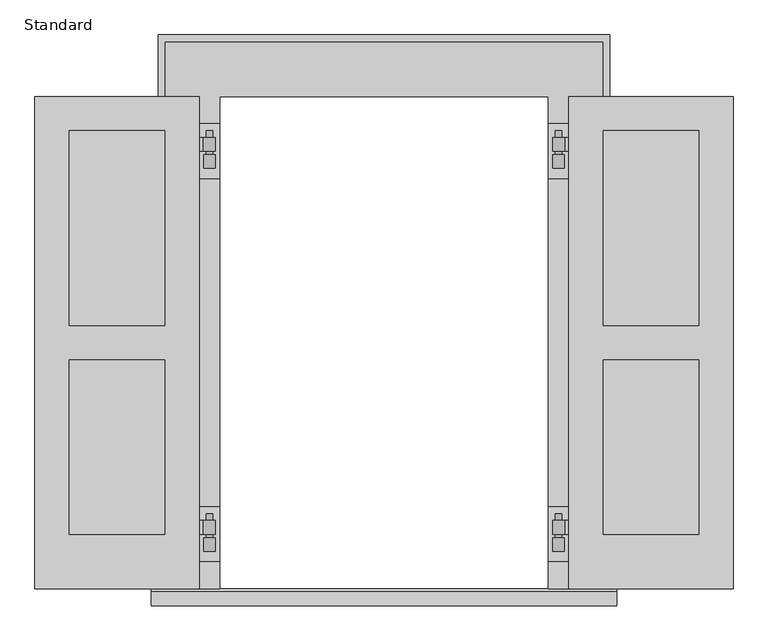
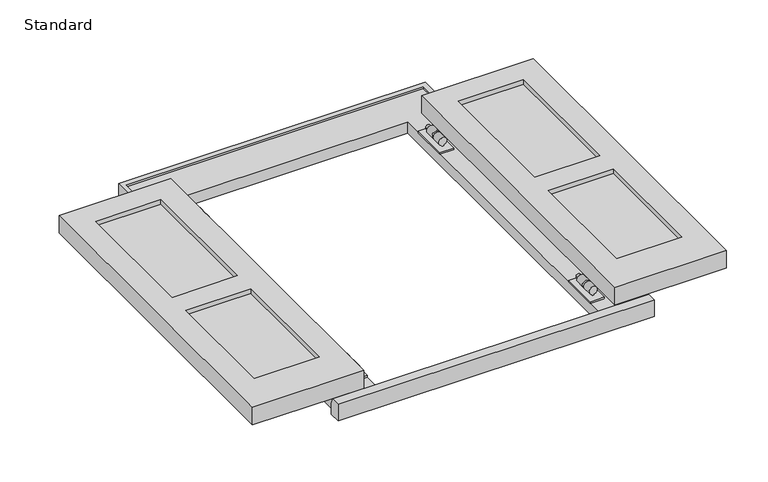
"""IFC4 building model written with IfcOpenShell, lengths in millimetres: proxy geometry, Shutters-Trim-Window-Exterior-Flat-Backband-Colonial : Standard."""

from ifc_helpers import new_model, si_unit, frame, origin, place, context, project, spatial, polyline, circle_curve, outline, extrude, faceted_brep, source, transform, mapped, element, save
from ifc_brep_helpers import plane_surface, cylinder_surface, revolved_surface, advanced_brep


def standard_7dc51323(model_context):
    return source(origin(), model_context, "Body", "SolidModel", [
        extrude(outline(polyline([(-647.7, 0.0), (-342.9, 0.0), (-342.9, -914.4), (-647.7, -914.4), (-647.7, 0.0)]), holes=[polyline([(-584.2, -63.5), (-584.2, -425.45), (-406.4, -425.45), (-406.4, -63.5), (-584.2, -63.5)]), polyline([(-406.4, -488.95), (-584.2, -488.95), (-584.2, -812.8), (-406.4, -812.8), (-406.4, -488.95)])]), frame((0.0, 0.0, 44.45), z_axis=(0.0, 0.0, 1.0), x_axis=(1.0, 0.0, 0.0)), (0.0, 0.0, 1.0), 50.8),
        extrude(outline(polyline([(-584.2, -63.5), (-406.4, -63.5), (-406.4, -425.45), (-584.2, -425.45), (-584.2, -63.5)])), frame((0.0, 0.0, 57.15), z_axis=(0.0, 0.0, 1.0), x_axis=(1.0, 0.0, 0.0)), (0.0, 0.0, 1.0), 25.4),
        extrude(outline(polyline([(-406.4, -488.95), (-406.4, -812.8), (-584.2, -812.8), (-584.2, -488.95), (-406.4, -488.95)])), frame((0.0, 0.0, 57.15), z_axis=(0.0, 0.0, 1.0), x_axis=(1.0, 0.0, 0.0)), (0.0, 0.0, 1.0), 25.4),
        extrude(outline(polyline([(647.7, 0.0), (647.7, -914.4), (342.9, -914.4), (342.9, 0.0), (647.7, 0.0)]), holes=[polyline([(584.2, -63.5), (406.4, -63.5), (406.4, -425.45), (584.2, -425.45), (584.2, -63.5)]), polyline([(406.4, -488.95), (406.4, -812.8), (584.2, -812.8), (584.2, -488.95), (406.4, -488.95)])]), frame((0.0, 0.0, 44.45), z_axis=(0.0, 0.0, 1.0), x_axis=(1.0, 0.0, 0.0)), (0.0, 0.0, 1.0), 50.8),
        extrude(outline(polyline([(584.2, -63.5), (584.2, -425.45), (406.4, -425.45), (406.4, -63.5), (584.2, -63.5)])), frame((0.0, 0.0, 57.15), z_axis=(0.0, 0.0, 1.0), x_axis=(1.0, 0.0, 0.0)), (0.0, 0.0, 1.0), 25.4),
        extrude(outline(polyline([(406.4, -488.95), (584.2, -488.95), (584.2, -812.8), (406.4, -812.8), (406.4, -488.95)])), frame((0.0, 0.0, 57.15), z_axis=(0.0, 0.0, 1.0), x_axis=(1.0, 0.0, 0.0)), (0.0, 0.0, 1.0), 25.4),
        extrude(outline(polyline([(-342.9, -762.0), (-304.8, -762.0), (-304.8, -863.6), (-342.9, -863.6), (-342.9, -762.0)])), frame((0.0, 0.0, 31.75), z_axis=(0.0, 0.0, 1.0), x_axis=(1.0, 0.0, 0.0)), (0.0, 0.0, 1.0), 4.7625),
        advanced_brep(
        [(-388.9375, -774.7, 44.45), (-363.474, -774.7, 44.45), (-363.474, -774.7, 39.6875), (-388.9375, -774.7, 39.6875), (-388.9375, -825.5, 39.6875), (-363.474, -825.5, 39.6875), (-363.474, -825.5, 44.45), (-388.9375, -825.5, 44.45), (-363.474, -787.4, 39.6875), (-323.85, -787.4, 39.6875), (-323.85, -812.8, 39.6875), (-363.474, -812.8, 39.6875), (-363.474, -812.8, 44.45), (-323.85, -812.8, 44.45), (-323.85, -787.4, 44.45), (-363.474, -787.4, 44.45), (-330.2, -812.8, 50.8), (-330.2, -787.4, 50.8), (-330.2, -812.8, 46.0375), (-330.2, -787.4, 46.0375), (-334.9625, -812.8, 46.0375), (-334.9625, -787.4, 46.0375), (-334.9625, -812.8, 50.8), (-334.9625, -787.4, 50.8)],
        [
            (0, 1),
            (1, 2),
            (2, 3),
            (3, 0),
            (4, 5),
            (5, 6),
            (6, 7),
            (7, 4),
            (2, 8),
            (8, 9),
            (9, 10),
            (10, 11),
            (11, 5),
            (4, 3),
            (7, 0),
            (6, 12),
            (12, 13),
            (13, 14),
            (14, 15),
            (15, 1),
            (16, 17),
            (17, 14, circle_curve(frame((-323.85, -787.4, 50.8), z_axis=(0.0, 1.0, 0.0), x_axis=(1.0, 0.0, 0.0)), 6.35)),
            (13, 16, circle_curve(frame((-323.85, -812.8, 50.8), z_axis=(0.0, -1.0, 0.0), x_axis=(1.0, 0.0, 0.0)), 6.35)),
            (18, 19),
            (19, 17),
            (16, 18),
            (20, 21),
            (21, 19),
            (18, 20),
            (22, 23),
            (23, 21),
            (20, 22),
            (9, 23, circle_curve(frame((-323.85, -787.4, 50.8), z_axis=(0.0, -1.0, 0.0), x_axis=(1.0, 0.0, 0.0)), 11.1125)),
            (22, 10, circle_curve(frame((-323.85, -812.8, 50.8), z_axis=(0.0, 1.0, 0.0), x_axis=(1.0, 0.0, 0.0)), 11.1125)),
            (12, 11),
            (8, 15),
        ],
        [
            plane_surface(frame((-323.85, -774.7, 50.8), z_axis=(0.0, 1.0, 0.0), x_axis=(0.0, 0.0, 1.0))),
            plane_surface(frame((-323.85, -825.5, 50.8), z_axis=(0.0, -1.0, 0.0), x_axis=(0.0, 0.0, 1.0))),
            plane_surface(frame((-388.9375, -774.7, 39.6875), z_axis=(0.0, 0.0, -1.0), x_axis=(0.0, -1.0, 0.0))),
            plane_surface(frame((-388.9375, -774.7, 44.45), z_axis=(-1.0, 0.0, 0.0), x_axis=(0.0, -1.0, 0.0))),
            plane_surface(frame((-323.85, -774.7, 44.45), z_axis=(0.0, 0.0, 1.0), x_axis=(0.0, -1.0, 0.0))),
            revolved_surface(polyline([(-317.5, -812.8, 50.8), (-317.5, -787.4, 50.8)]), (-323.85, -774.7, 50.8), (0.0, -1.0, 0.0)),
            plane_surface(frame((-330.2, -774.7, 46.0375), z_axis=(1.0, 0.0, 0.0), x_axis=(0.0, -1.0, 0.0))),
            plane_surface(frame((-334.9625, -774.7, 46.0375), z_axis=(0.0, 0.0, -1.0), x_axis=(0.0, -1.0, 0.0))),
            plane_surface(frame((-334.9625, -774.7, 50.8), z_axis=(-1.0, 0.0, 0.0), x_axis=(0.0, -1.0, 0.0))),
            cylinder_surface(frame((-323.85, -774.7, 50.8), z_axis=(0.0, 1.0, 0.0), x_axis=(1.0, 0.0, 0.0)), 11.1125),
            plane_surface(frame((-323.85, -812.8, 50.8), z_axis=(0.0, -1.0, 0.0), x_axis=(0.0, 0.0, 1.0))),
            plane_surface(frame((-363.474, -812.8, 44.45), z_axis=(1.0, 0.0, 0.0), x_axis=(0.0, -1.0, 0.0))),
            plane_surface(frame((-323.85, -787.4, 50.8), z_axis=(0.0, 1.0, 0.0), x_axis=(0.0, 0.0, 1.0))),
            plane_surface(frame((-363.474, -774.7, 44.45), z_axis=(1.0, 0.0, 0.0), x_axis=(0.0, -1.0, 0.0))),
        ],
        [
            (0, [[1, 2, 3, 4]]),
            (1, [[5, 6, 7, 8]]),
            (2, [[-3, 9, 10, 11, 12, 13, -5, 14]]),
            (3, [[-14, -8, 15, -4]]),
            (4, [[-7, 16, 17, 18, 19, 20, -1, -15]]),
            (5, [[21, 22, -18, 23]]),
            (6, [[24, 25, -21, 26]]),
            (7, [[27, 28, -24, 29]]),
            (8, [[30, 31, -27, 32]]),
            (9, [[-11, 33, -30, 34]]),
            (10, [[-12, -34, -32, -29, -26, -23, -17, 35]]),
            (11, [[-16, -6, -13, -35]]),
            (12, [[-19, -22, -25, -28, -31, -33, -10, 36]]),
            (13, [[-9, -2, -20, -36]]),
        ],
    ),
        advanced_brep(
        [(-326.23125, -819.15, 36.5125), (-326.23125, -819.15, 39.945632), (-321.46875, -819.15, 39.945632), (-321.46875, -819.15, 36.5125), (-317.5, -819.15, 50.8), (-330.2, -819.15, 50.8), (-326.23125, -844.55, 36.5125), (-321.46875, -844.55, 36.5125), (-321.46875, -844.55, 39.945632), (-326.23125, -844.55, 39.945632), (-330.2, -774.7, 50.8), (-317.5, -774.7, 50.8)],
        [
            (0, 1),
            (1, 2, circle_curve(frame((-323.85, -819.15, 50.8), z_axis=(0.0, 1.0, 0.0), x_axis=(1.0, 0.0, 0.0)), 11.1125)),
            (2, 3),
            (3, 0),
            (4, 5, circle_curve(frame((-323.85, -819.15, 50.8), z_axis=(0.0, -1.0, 0.0), x_axis=(1.0, 0.0, 0.0)), 6.35)),
            (5, 4, circle_curve(frame((-323.85, -819.15, 50.8), z_axis=(0.0, -1.0, 0.0), x_axis=(1.0, 0.0, 0.0)), 6.35)),
            (6, 7),
            (7, 8),
            (8, 9, circle_curve(frame((-323.85, -844.55, 50.8), z_axis=(0.0, -1.0, 0.0), x_axis=(1.0, 0.0, 0.0)), 11.1125)),
            (9, 6),
            (0, 6),
            (9, 1),
            (3, 7),
            (2, 8),
            (10, 11, circle_curve(frame((-323.85, -774.7, 50.8), z_axis=(0.0, 1.0, 0.0), x_axis=(1.0, 0.0, 0.0)), 6.35)),
            (11, 10, circle_curve(frame((-323.85, -774.7, 50.8), z_axis=(0.0, 1.0, 0.0), x_axis=(1.0, 0.0, 0.0)), 6.35)),
            (11, 4),
            (5, 10),
        ],
        [
            plane_surface(frame((-321.46875, -819.15, 36.5125), z_axis=(0.0, 1.0, 0.0), x_axis=(1.0, 0.0, 6.23955382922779e-12))),
            plane_surface(frame((-321.46875, -844.55, 36.5125), z_axis=(0.0, -1.0, 0.0), x_axis=(-1.0, 0.0, -6.23955382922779e-12))),
            plane_surface(frame((-326.23125, -819.15, 39.945632), z_axis=(-1.0, 0.0, 0.0), x_axis=(0.0, -1.0, 0.0))),
            plane_surface(frame((-326.23125, -819.15, 36.5125), z_axis=(6.23955382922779e-12, 0.0, -1.0), x_axis=(0.0, -1.0, 0.0))),
            plane_surface(frame((-321.46875, -819.15, 36.5125), z_axis=(1.0, 0.0, 0.0), x_axis=(0.0, -1.0, 0.0))),
            cylinder_surface(frame((-323.85, -844.55, 50.8), z_axis=(0.0, 1.0, 0.0), x_axis=(1.0, 0.0, 0.0)), 11.1125),
            plane_surface(frame((-317.5, -774.7, 50.8), z_axis=(0.0, 1.0, 0.0), x_axis=(0.0, 0.0, 1.0))),
            cylinder_surface(frame((-323.85, -844.55, 50.8), z_axis=(0.0, 1.0, 0.0), x_axis=(1.0, 0.0, 0.0)), 6.35),
        ],
        [
            (0, [[1, 2, 3, 4], [5, 6]]),
            (1, [[7, 8, 9, 10]]),
            (2, [[11, -10, 12, -1]]),
            (3, [[13, -7, -11, -4]]),
            (4, [[14, -8, -13, -3]]),
            (5, [[-12, -9, -14, -2]]),
            (6, [[15, 16]]),
            (7, [[17, -6, 18, -16]]),
            (7, [[-18, -5, -17, -15]]),
        ],
    ),
        extrude(outline(polyline([(342.9, -762.0), (342.9, -863.6), (304.8, -863.6), (304.8, -762.0), (342.9, -762.0)])), frame((0.0, 0.0, 31.75), z_axis=(0.0, 0.0, 1.0), x_axis=(1.0, 0.0, 0.0)), (0.0, 0.0, 1.0), 4.7625),
        advanced_brep(
        [(388.9375, -774.7, 44.45), (388.9375, -774.7, 39.6875), (363.474, -774.7, 39.6875), (363.474, -774.7, 44.45), (388.9375, -825.5, 39.6875), (388.9375, -825.5, 44.45), (363.474, -825.5, 44.45), (363.474, -825.5, 39.6875), (363.474, -812.8, 39.6875), (323.85, -812.8, 39.6875), (323.85, -787.4, 39.6875), (363.474, -787.4, 39.6875), (363.474, -787.4, 44.45), (323.85, -787.4, 44.45), (323.85, -812.8, 44.45), (363.474, -812.8, 44.45), (330.2, -812.8, 50.8), (330.2, -787.4, 50.8), (330.2, -812.8, 46.0375), (330.2, -787.4, 46.0375), (334.9625, -812.8, 46.0375), (334.9625, -787.4, 46.0375), (334.9625, -812.8, 50.8), (334.9625, -787.4, 50.8)],
        [
            (0, 1),
            (1, 2),
            (2, 3),
            (3, 0),
            (4, 5),
            (5, 6),
            (6, 7),
            (7, 4),
            (1, 4),
            (7, 8),
            (8, 9),
            (9, 10),
            (10, 11),
            (11, 2),
            (0, 5),
            (3, 12),
            (12, 13),
            (13, 14),
            (14, 15),
            (15, 6),
            (16, 14, circle_curve(frame((323.85, -812.8, 50.8), z_axis=(0.0, -1.0, 0.0), x_axis=(-1.0, 0.0, 0.0)), 6.35)),
            (13, 17, circle_curve(frame((323.85, -787.4, 50.8), z_axis=(0.0, 1.0, 0.0), x_axis=(-1.0, 0.0, 0.0)), 6.35)),
            (17, 16),
            (18, 16),
            (17, 19),
            (19, 18),
            (20, 18),
            (19, 21),
            (21, 20),
            (22, 20),
            (21, 23),
            (23, 22),
            (9, 22, circle_curve(frame((323.85, -812.8, 50.8), z_axis=(0.0, 1.0, 0.0), x_axis=(-1.0, 0.0, 0.0)), 11.1125)),
            (23, 10, circle_curve(frame((323.85, -787.4, 50.8), z_axis=(0.0, -1.0, 0.0), x_axis=(-1.0, 0.0, 0.0)), 11.1125)),
            (8, 15),
            (12, 11),
        ],
        [
            plane_surface(frame((323.85, -774.7, 50.8), z_axis=(0.0, 1.0, 0.0), x_axis=(0.0, 0.0, 1.0))),
            plane_surface(frame((323.85, -825.5, 50.8), z_axis=(0.0, -1.0, 0.0), x_axis=(0.0, 0.0, 1.0))),
            plane_surface(frame((388.9375, -774.7, 39.6875), z_axis=(0.0, 0.0, -1.0), x_axis=(0.0, -1.0, 0.0))),
            plane_surface(frame((388.9375, -774.7, 44.45), z_axis=(1.0, 0.0, 0.0), x_axis=(0.0, -1.0, 0.0))),
            plane_surface(frame((323.85, -774.7, 44.45), z_axis=(0.0, 0.0, 1.0), x_axis=(0.0, -1.0, 0.0))),
            revolved_surface(polyline([(317.5, -812.8, 50.8), (317.5, -787.4, 50.8)]), (323.85, -774.7, 50.8), (0.0, -1.0, 0.0)),
            plane_surface(frame((330.2, -774.7, 46.0375), z_axis=(-1.0, 0.0, 0.0), x_axis=(0.0, -1.0, 0.0))),
            plane_surface(frame((334.9625, -774.7, 46.0375), z_axis=(0.0, 0.0, -1.0), x_axis=(0.0, -1.0, 0.0))),
            plane_surface(frame((334.9625, -774.7, 50.8), z_axis=(1.0, 0.0, 0.0), x_axis=(0.0, -1.0, 0.0))),
            cylinder_surface(frame((323.85, -774.7, 50.8), z_axis=(0.0, 1.0, 0.0), x_axis=(-1.0, 0.0, 0.0)), 11.1125),
            plane_surface(frame((323.85, -812.8, 50.8), z_axis=(0.0, -1.0, 0.0), x_axis=(0.0, 0.0, 1.0))),
            plane_surface(frame((363.474, -812.8, 44.45), z_axis=(-1.0, 0.0, 0.0), x_axis=(0.0, -1.0, 0.0))),
            plane_surface(frame((323.85, -787.4, 50.8), z_axis=(0.0, 1.0, 0.0), x_axis=(0.0, 0.0, 1.0))),
            plane_surface(frame((363.474, -774.7, 44.45), z_axis=(-1.0, 0.0, 0.0), x_axis=(0.0, -1.0, 0.0))),
        ],
        [
            (0, [[1, 2, 3, 4]]),
            (1, [[5, 6, 7, 8]]),
            (2, [[9, -8, 10, 11, 12, 13, 14, -2]]),
            (3, [[-1, 15, -5, -9]]),
            (4, [[-15, -4, 16, 17, 18, 19, 20, -6]]),
            (5, [[21, -18, 22, 23]]),
            (6, [[24, -23, 25, 26]]),
            (7, [[27, -26, 28, 29]]),
            (8, [[30, -29, 31, 32]]),
            (9, [[33, -32, 34, -12]]),
            (10, [[35, -19, -21, -24, -27, -30, -33, -11]]),
            (11, [[-35, -10, -7, -20]]),
            (12, [[36, -13, -34, -31, -28, -25, -22, -17]]),
            (13, [[-36, -16, -3, -14]]),
        ],
    ),
        advanced_brep(
        [(326.23125, -819.15, 36.5125), (321.46875, -819.15, 36.5125), (321.46875, -819.15, 39.945632), (326.23125, -819.15, 39.945632), (317.5, -819.15, 50.8), (330.2, -819.15, 50.8), (326.23125, -844.55, 36.5125), (326.23125, -844.55, 39.945632), (321.46875, -844.55, 39.945632), (321.46875, -844.55, 36.5125), (330.2, -774.7, 50.8), (317.5, -774.7, 50.8)],
        [
            (0, 1),
            (1, 2),
            (2, 3, circle_curve(frame((323.85, -819.15, 50.8), z_axis=(0.0, 1.0, 0.0), x_axis=(-1.0, 0.0, 0.0)), 11.1125)),
            (3, 0),
            (4, 5, circle_curve(frame((323.85, -819.15, 50.8), z_axis=(0.0, -1.0, 0.0), x_axis=(-1.0, 0.0, 0.0)), 6.35)),
            (5, 4, circle_curve(frame((323.85, -819.15, 50.8), z_axis=(0.0, -1.0, 0.0), x_axis=(-1.0, 0.0, 0.0)), 6.35)),
            (6, 7),
            (7, 8, circle_curve(frame((323.85, -844.55, 50.8), z_axis=(0.0, -1.0, 0.0), x_axis=(-1.0, 0.0, 0.0)), 11.1125)),
            (8, 9),
            (9, 6),
            (3, 7),
            (6, 0),
            (9, 1),
            (8, 2),
            (10, 11, circle_curve(frame((323.85, -774.7, 50.8), z_axis=(0.0, 1.0, 0.0), x_axis=(-1.0, 0.0, 0.0)), 6.35)),
            (11, 10, circle_curve(frame((323.85, -774.7, 50.8), z_axis=(0.0, 1.0, 0.0), x_axis=(-1.0, 0.0, 0.0)), 6.35)),
            (10, 5),
            (4, 11),
        ],
        [
            plane_surface(frame((321.46875, -819.15, 36.5125), z_axis=(0.0, 1.0, 0.0), x_axis=(-1.0, 0.0, 6.246014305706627e-12))),
            plane_surface(frame((321.46875, -844.55, 36.5125), z_axis=(0.0, -1.0, 0.0), x_axis=(1.0, 0.0, -6.246014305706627e-12))),
            plane_surface(frame((326.23125, -819.15, 39.945632), z_axis=(1.0, 0.0, 0.0), x_axis=(0.0, -1.0, 0.0))),
            plane_surface(frame((326.23125, -819.15, 36.5125), z_axis=(-6.246014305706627e-12, 0.0, -1.0), x_axis=(0.0, -1.0, 0.0))),
            plane_surface(frame((321.46875, -819.15, 36.5125), z_axis=(-1.0, 0.0, 0.0), x_axis=(0.0, -1.0, 0.0))),
            cylinder_surface(frame((323.85, -844.55, 50.8), z_axis=(0.0, 1.0, 0.0), x_axis=(-1.0, 0.0, 0.0)), 11.1125),
            plane_surface(frame((317.5, -774.7, 50.8), z_axis=(0.0, 1.0, 0.0), x_axis=(0.0, 0.0, 1.0))),
            cylinder_surface(frame((323.85, -844.55, 50.8), z_axis=(0.0, 1.0, 0.0), x_axis=(-1.0, 0.0, 0.0)), 6.35),
        ],
        [
            (0, [[1, 2, 3, 4], [5, 6]]),
            (1, [[7, 8, 9, 10]]),
            (2, [[-4, 11, -7, 12]]),
            (3, [[-1, -12, -10, 13]]),
            (4, [[-2, -13, -9, 14]]),
            (5, [[-3, -14, -8, -11]]),
            (6, [[15, 16]]),
            (7, [[-15, 17, -5, 18]]),
            (7, [[-16, -18, -6, -17]]),
        ],
    ),
        extrude(outline(polyline([(342.9, -50.8), (342.9, -152.4), (304.8, -152.4), (304.8, -50.8), (342.9, -50.8)])), frame((0.0, 0.0, 31.75), z_axis=(0.0, 0.0, 1.0), x_axis=(1.0, 0.0, 0.0)), (0.0, 0.0, 1.0), 4.7625),
        advanced_brep(
        [(388.9375, -63.5, 44.45), (388.9375, -63.5, 39.6875), (363.474, -63.5, 39.6875), (363.474, -63.5, 44.45), (388.9375, -114.3, 39.6875), (388.9375, -114.3, 44.45), (363.474, -114.3, 44.45), (363.474, -114.3, 39.6875), (363.474, -101.6, 39.6875), (323.85, -101.6, 39.6875), (323.85, -76.2, 39.6875), (363.474, -76.2, 39.6875), (363.474, -76.2, 44.45), (323.85, -76.2, 44.45), (323.85, -101.6, 44.45), (363.474, -101.6, 44.45), (330.2, -101.6, 50.8), (330.2, -76.2, 50.8), (330.2, -101.6, 46.0375), (330.2, -76.2, 46.0375), (334.9625, -101.6, 46.0375), (334.9625, -76.2, 46.0375), (334.9625, -101.6, 50.8), (334.9625, -76.2, 50.8)],
        [
            (0, 1),
            (1, 2),
            (2, 3),
            (3, 0),
            (4, 5),
            (5, 6),
            (6, 7),
            (7, 4),
            (1, 4),
            (7, 8),
            (8, 9),
            (9, 10),
            (10, 11),
            (11, 2),
            (0, 5),
            (3, 12),
            (12, 13),
            (13, 14),
            (14, 15),
            (15, 6),
            (16, 14, circle_curve(frame((323.85, -101.6, 50.8), z_axis=(0.0, -1.0, 0.0), x_axis=(-1.0, 0.0, 0.0)), 6.35)),
            (13, 17, circle_curve(frame((323.85, -76.2, 50.8), z_axis=(0.0, 1.0, 0.0), x_axis=(-1.0, 0.0, 0.0)), 6.35)),
            (17, 16),
            (18, 16),
            (17, 19),
            (19, 18),
            (20, 18),
            (19, 21),
            (21, 20),
            (22, 20),
            (21, 23),
            (23, 22),
            (9, 22, circle_curve(frame((323.85, -101.6, 50.8), z_axis=(0.0, 1.0, 0.0), x_axis=(-1.0, 0.0, 0.0)), 11.1125)),
            (23, 10, circle_curve(frame((323.85, -76.2, 50.8), z_axis=(0.0, -1.0, 0.0), x_axis=(-1.0, 0.0, 0.0)), 11.1125)),
            (8, 15),
            (12, 11),
        ],
        [
            plane_surface(frame((323.85, -63.5, 50.8), z_axis=(0.0, 1.0, 0.0), x_axis=(0.0, 0.0, 1.0))),
            plane_surface(frame((323.85, -114.3, 50.8), z_axis=(0.0, -1.0, 0.0), x_axis=(0.0, 0.0, 1.0))),
            plane_surface(frame((388.9375, -63.5, 39.6875), z_axis=(0.0, 0.0, -1.0), x_axis=(0.0, -1.0, 0.0))),
            plane_surface(frame((388.9375, -63.5, 44.45), z_axis=(1.0, 0.0, 0.0), x_axis=(0.0, -1.0, 0.0))),
            plane_surface(frame((323.85, -63.5, 44.45), z_axis=(0.0, 0.0, 1.0), x_axis=(0.0, -1.0, 0.0))),
            revolved_surface(polyline([(317.5, -101.6, 50.8), (317.5, -76.2, 50.8)]), (323.85, -63.5, 50.8), (0.0, -1.0, 0.0)),
            plane_surface(frame((330.2, -63.5, 46.0375), z_axis=(-1.0, 0.0, 0.0), x_axis=(0.0, -1.0, 0.0))),
            plane_surface(frame((334.9625, -63.5, 46.0375), z_axis=(0.0, 0.0, -1.0), x_axis=(0.0, -1.0, 0.0))),
            plane_surface(frame((334.9625, -63.5, 50.8), z_axis=(1.0, 0.0, 0.0), x_axis=(0.0, -1.0, 0.0))),
            cylinder_surface(frame((323.85, -63.5, 50.8), z_axis=(0.0, 1.0, 0.0), x_axis=(-1.0, 0.0, 0.0)), 11.1125),
            plane_surface(frame((323.85, -101.6, 50.8), z_axis=(0.0, -1.0, 0.0), x_axis=(0.0, 0.0, 1.0))),
            plane_surface(frame((363.474, -101.6, 44.45), z_axis=(-1.0, 0.0, 0.0), x_axis=(0.0, -1.0, 0.0))),
            plane_surface(frame((323.85, -76.2, 50.8), z_axis=(0.0, 1.0, 0.0), x_axis=(0.0, 0.0, 1.0))),
            plane_surface(frame((363.474, -63.5, 44.45), z_axis=(-1.0, 0.0, 0.0), x_axis=(0.0, -1.0, 0.0))),
        ],
        [
            (0, [[1, 2, 3, 4]]),
            (1, [[5, 6, 7, 8]]),
            (2, [[9, -8, 10, 11, 12, 13, 14, -2]]),
            (3, [[-1, 15, -5, -9]]),
            (4, [[-15, -4, 16, 17, 18, 19, 20, -6]]),
            (5, [[21, -18, 22, 23]]),
            (6, [[24, -23, 25, 26]]),
            (7, [[27, -26, 28, 29]]),
            (8, [[30, -29, 31, 32]]),
            (9, [[33, -32, 34, -12]]),
            (10, [[35, -19, -21, -24, -27, -30, -33, -11]]),
            (11, [[-35, -10, -7, -20]]),
            (12, [[36, -13, -34, -31, -28, -25, -22, -17]]),
            (13, [[-36, -16, -3, -14]]),
        ],
    ),
        advanced_brep(
        [(326.23125, -107.95, 36.5125), (321.46875, -107.95, 36.5125), (321.46875, -107.95, 39.945632), (326.23125, -107.95, 39.945632), (317.5, -107.95, 50.8), (330.2, -107.95, 50.8), (326.23125, -133.35, 36.5125), (326.23125, -133.35, 39.945632), (321.46875, -133.35, 39.945632), (321.46875, -133.35, 36.5125), (330.2, -63.5, 50.8), (317.5, -63.5, 50.8)],
        [
            (0, 1),
            (1, 2),
            (2, 3, circle_curve(frame((323.85, -107.95, 50.8), z_axis=(0.0, 1.0, 0.0), x_axis=(-1.0, 0.0, 0.0)), 11.1125)),
            (3, 0),
            (4, 5, circle_curve(frame((323.85, -107.95, 50.8), z_axis=(0.0, -1.0, 0.0), x_axis=(-1.0, 0.0, 0.0)), 6.35)),
            (5, 4, circle_curve(frame((323.85, -107.95, 50.8), z_axis=(0.0, -1.0, 0.0), x_axis=(-1.0, 0.0, 0.0)), 6.35)),
            (6, 7),
            (7, 8, circle_curve(frame((323.85, -133.35, 50.8), z_axis=(0.0, -1.0, 0.0), x_axis=(-1.0, 0.0, 0.0)), 11.1125)),
            (8, 9),
            (9, 6),
            (3, 7),
            (6, 0),
            (9, 1),
            (8, 2),
            (10, 11, circle_curve(frame((323.85, -63.5, 50.8), z_axis=(0.0, 1.0, 0.0), x_axis=(-1.0, 0.0, 0.0)), 6.35)),
            (11, 10, circle_curve(frame((323.85, -63.5, 50.8), z_axis=(0.0, 1.0, 0.0), x_axis=(-1.0, 0.0, 0.0)), 6.35)),
            (10, 5),
            (4, 11),
        ],
        [
            plane_surface(frame((321.46875, -107.95, 36.5125), z_axis=(0.0, 1.0, 0.0), x_axis=(-1.0, 0.0, 6.246014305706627e-12))),
            plane_surface(frame((321.46875, -133.35, 36.5125), z_axis=(0.0, -1.0, 0.0), x_axis=(1.0, 0.0, -6.246014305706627e-12))),
            plane_surface(frame((326.23125, -107.95, 39.945632), z_axis=(1.0, 0.0, 0.0), x_axis=(0.0, -1.0, 0.0))),
            plane_surface(frame((326.23125, -107.95, 36.5125), z_axis=(-6.246014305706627e-12, 0.0, -1.0), x_axis=(0.0, -1.0, 0.0))),
            plane_surface(frame((321.46875, -107.95, 36.5125), z_axis=(-1.0, 0.0, 0.0), x_axis=(0.0, -1.0, 0.0))),
            cylinder_surface(frame((323.85, -133.35, 50.8), z_axis=(0.0, 1.0, 0.0), x_axis=(-1.0, 0.0, 0.0)), 11.1125),
            plane_surface(frame((317.5, -63.5, 50.8), z_axis=(0.0, 1.0, 0.0), x_axis=(0.0, 0.0, 1.0))),
            cylinder_surface(frame((323.85, -133.35, 50.8), z_axis=(0.0, 1.0, 0.0), x_axis=(-1.0, 0.0, 0.0)), 6.35),
        ],
        [
            (0, [[1, 2, 3, 4], [5, 6]]),
            (1, [[7, 8, 9, 10]]),
            (2, [[-4, 11, -7, 12]]),
            (3, [[-1, -12, -10, 13]]),
            (4, [[-2, -13, -9, 14]]),
            (5, [[-3, -14, -8, -11]]),
            (6, [[15, 16]]),
            (7, [[-15, 17, -5, 18]]),
            (7, [[-16, -18, -6, -17]]),
        ],
    ),
        extrude(outline(polyline([(-342.9, -50.8), (-304.8, -50.8), (-304.8, -152.4), (-342.9, -152.4), (-342.9, -50.8)])), frame((0.0, 0.0, 31.75), z_axis=(0.0, 0.0, 1.0), x_axis=(1.0, 0.0, 0.0)), (0.0, 0.0, 1.0), 4.7625),
        advanced_brep(
        [(-388.9375, -63.5, 44.45), (-363.474, -63.5, 44.45), (-363.474, -63.5, 39.6875), (-388.9375, -63.5, 39.6875), (-388.9375, -114.3, 39.6875), (-363.474, -114.3, 39.6875), (-363.474, -114.3, 44.45), (-388.9375, -114.3, 44.45), (-363.474, -76.2, 39.6875), (-323.85, -76.2, 39.6875), (-323.85, -101.6, 39.6875), (-363.474, -101.6, 39.6875), (-363.474, -101.6, 44.45), (-323.85, -101.6, 44.45), (-323.85, -76.2, 44.45), (-363.474, -76.2, 44.45), (-330.2, -101.6, 50.8), (-330.2, -76.2, 50.8), (-330.2, -101.6, 46.0375), (-330.2, -76.2, 46.0375), (-334.9625, -101.6, 46.0375), (-334.9625, -76.2, 46.0375), (-334.9625, -101.6, 50.8), (-334.9625, -76.2, 50.8)],
        [
            (0, 1),
            (1, 2),
            (2, 3),
            (3, 0),
            (4, 5),
            (5, 6),
            (6, 7),
            (7, 4),
            (2, 8),
            (8, 9),
            (9, 10),
            (10, 11),
            (11, 5),
            (4, 3),
            (7, 0),
            (6, 12),
            (12, 13),
            (13, 14),
            (14, 15),
            (15, 1),
            (16, 17),
            (17, 14, circle_curve(frame((-323.85, -76.2, 50.8), z_axis=(0.0, 1.0, 0.0), x_axis=(1.0, 0.0, 0.0)), 6.35)),
            (13, 16, circle_curve(frame((-323.85, -101.6, 50.8), z_axis=(0.0, -1.0, 0.0), x_axis=(1.0, 0.0, 0.0)), 6.35)),
            (18, 19),
            (19, 17),
            (16, 18),
            (20, 21),
            (21, 19),
            (18, 20),
            (22, 23),
            (23, 21),
            (20, 22),
            (9, 23, circle_curve(frame((-323.85, -76.2, 50.8), z_axis=(0.0, -1.0, 0.0), x_axis=(1.0, 0.0, 0.0)), 11.1125)),
            (22, 10, circle_curve(frame((-323.85, -101.6, 50.8), z_axis=(0.0, 1.0, 0.0), x_axis=(1.0, 0.0, 0.0)), 11.1125)),
            (12, 11),
            (8, 15),
        ],
        [
            plane_surface(frame((-323.85, -63.5, 50.8), z_axis=(0.0, 1.0, 0.0), x_axis=(0.0, 0.0, 1.0))),
            plane_surface(frame((-323.85, -114.3, 50.8), z_axis=(0.0, -1.0, 0.0), x_axis=(0.0, 0.0, 1.0))),
            plane_surface(frame((-388.9375, -63.5, 39.6875), z_axis=(0.0, 0.0, -1.0), x_axis=(0.0, -1.0, 0.0))),
            plane_surface(frame((-388.9375, -63.5, 44.45), z_axis=(-1.0, 0.0, 0.0), x_axis=(0.0, -1.0, 0.0))),
            plane_surface(frame((-323.85, -63.5, 44.45), z_axis=(0.0, 0.0, 1.0), x_axis=(0.0, -1.0, 0.0))),
            revolved_surface(polyline([(-317.5, -101.6, 50.8), (-317.5, -76.2, 50.8)]), (-323.85, -63.5, 50.8), (0.0, -1.0, 0.0)),
            plane_surface(frame((-330.2, -63.5, 46.0375), z_axis=(1.0, 0.0, 0.0), x_axis=(0.0, -1.0, 0.0))),
            plane_surface(frame((-334.9625, -63.5, 46.0375), z_axis=(0.0, 0.0, -1.0), x_axis=(0.0, -1.0, 0.0))),
            plane_surface(frame((-334.9625, -63.5, 50.8), z_axis=(-1.0, 0.0, 0.0), x_axis=(0.0, -1.0, 0.0))),
            cylinder_surface(frame((-323.85, -63.5, 50.8), z_axis=(0.0, 1.0, 0.0), x_axis=(1.0, 0.0, 0.0)), 11.1125),
            plane_surface(frame((-323.85, -101.6, 50.8), z_axis=(0.0, -1.0, 0.0), x_axis=(0.0, 0.0, 1.0))),
            plane_surface(frame((-363.474, -101.6, 44.45), z_axis=(1.0, 0.0, 0.0), x_axis=(0.0, -1.0, 0.0))),
            plane_surface(frame((-323.85, -76.2, 50.8), z_axis=(0.0, 1.0, 0.0), x_axis=(0.0, 0.0, 1.0))),
            plane_surface(frame((-363.474, -63.5, 44.45), z_axis=(1.0, 0.0, 0.0), x_axis=(0.0, -1.0, 0.0))),
        ],
        [
            (0, [[1, 2, 3, 4]]),
            (1, [[5, 6, 7, 8]]),
            (2, [[-3, 9, 10, 11, 12, 13, -5, 14]]),
            (3, [[-14, -8, 15, -4]]),
            (4, [[-7, 16, 17, 18, 19, 20, -1, -15]]),
            (5, [[21, 22, -18, 23]]),
            (6, [[24, 25, -21, 26]]),
            (7, [[27, 28, -24, 29]]),
            (8, [[30, 31, -27, 32]]),
            (9, [[-11, 33, -30, 34]]),
            (10, [[-12, -34, -32, -29, -26, -23, -17, 35]]),
            (11, [[-16, -6, -13, -35]]),
            (12, [[-19, -22, -25, -28, -31, -33, -10, 36]]),
            (13, [[-9, -2, -20, -36]]),
        ],
    ),
        advanced_brep(
        [(-326.23125, -107.95, 36.5125), (-326.23125, -107.95, 39.945632), (-321.46875, -107.95, 39.945632), (-321.46875, -107.95, 36.5125), (-317.5, -107.95, 50.8), (-330.2, -107.95, 50.8), (-326.23125, -133.35, 36.5125), (-321.46875, -133.35, 36.5125), (-321.46875, -133.35, 39.945632), (-326.23125, -133.35, 39.945632), (-330.2, -63.5, 50.8), (-317.5, -63.5, 50.8)],
        [
            (0, 1),
            (1, 2, circle_curve(frame((-323.85, -107.95, 50.8), z_axis=(0.0, 1.0, 0.0), x_axis=(1.0, 0.0, 0.0)), 11.1125)),
            (2, 3),
            (3, 0),
            (4, 5, circle_curve(frame((-323.85, -107.95, 50.8), z_axis=(0.0, -1.0, 0.0), x_axis=(1.0, 0.0, 0.0)), 6.35)),
            (5, 4, circle_curve(frame((-323.85, -107.95, 50.8), z_axis=(0.0, -1.0, 0.0), x_axis=(1.0, 0.0, 0.0)), 6.35)),
            (6, 7),
            (7, 8),
            (8, 9, circle_curve(frame((-323.85, -133.35, 50.8), z_axis=(0.0, -1.0, 0.0), x_axis=(1.0, 0.0, 0.0)), 11.1125)),
            (9, 6),
            (0, 6),
            (9, 1),
            (3, 7),
            (2, 8),
            (10, 11, circle_curve(frame((-323.85, -63.5, 50.8), z_axis=(0.0, 1.0, 0.0), x_axis=(1.0, 0.0, 0.0)), 6.35)),
            (11, 10, circle_curve(frame((-323.85, -63.5, 50.8), z_axis=(0.0, 1.0, 0.0), x_axis=(1.0, 0.0, 0.0)), 6.35)),
            (11, 4),
            (5, 10),
        ],
        [
            plane_surface(frame((-321.46875, -107.95, 36.5125), z_axis=(0.0, 1.0, 0.0), x_axis=(1.0, 0.0, 6.23955382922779e-12))),
            plane_surface(frame((-321.46875, -133.35, 36.5125), z_axis=(0.0, -1.0, 0.0), x_axis=(-1.0, 0.0, -6.23955382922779e-12))),
            plane_surface(frame((-326.23125, -107.95, 39.945632), z_axis=(-1.0, 0.0, 0.0), x_axis=(0.0, -1.0, 0.0))),
            plane_surface(frame((-326.23125, -107.95, 36.5125), z_axis=(6.23955382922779e-12, 0.0, -1.0), x_axis=(0.0, -1.0, 0.0))),
            plane_surface(frame((-321.46875, -107.95, 36.5125), z_axis=(1.0, 0.0, 0.0), x_axis=(0.0, -1.0, 0.0))),
            cylinder_surface(frame((-323.85, -133.35, 50.8), z_axis=(0.0, 1.0, 0.0), x_axis=(1.0, 0.0, 0.0)), 11.1125),
            plane_surface(frame((-317.5, -63.5, 50.8), z_axis=(0.0, 1.0, 0.0), x_axis=(0.0, 0.0, 1.0))),
            cylinder_surface(frame((-323.85, -133.35, 50.8), z_axis=(0.0, 1.0, 0.0), x_axis=(1.0, 0.0, 0.0)), 6.35),
        ],
        [
            (0, [[1, 2, 3, 4], [5, 6]]),
            (1, [[7, 8, 9, 10]]),
            (2, [[11, -10, 12, -1]]),
            (3, [[13, -7, -11, -4]]),
            (4, [[14, -8, -13, -3]]),
            (5, [[-12, -9, -14, -2]]),
            (6, [[15, 16]]),
            (7, [[17, -6, 18, -16]]),
            (7, [[-18, -5, -17, -15]]),
        ],
    ),
        extrude(outline(polyline([(-914.4, 31.75), (-914.4, 0.0), (-946.15, 0.0), (-946.15, 47.625), (-920.1780275, 47.625), (-914.4, 31.75)])), frame((-431.8, 0.0, 0.0), z_axis=(1.0, 0.0, 0.0), x_axis=(0.0, 1.0, 0.0)), (0.0, 0.0, 1.0), 863.6),
        faceted_brep([(304.8, -914.4, 31.75), (304.8, -914.4, 0.0), (419.1, -914.4, 0.0), (419.1, -914.4, 38.1), (406.4, -914.4, 38.1), (406.4, -914.4, 31.75), (-304.8, -914.4, 31.75), (-406.4, -914.4, 31.75), (-406.4, -914.4, 38.1), (-419.1, -914.4, 38.1), (-419.1, -914.4, 0.0), (-304.8, -914.4, 0.0), (304.8, 0.0, 31.75), (304.8, 0.0, 0.0), (-304.8, 0.0, 0.0), (-419.1, 114.3, 0.0), (419.1, 114.3, 0.0), (419.1, 114.3, 38.1), (-419.1, 114.3, 38.1), (-406.4, 101.6, 38.1), (406.4, 101.6, 38.1), (406.4, 101.6, 31.75), (-406.4, 101.6, 31.75), (-304.8, 0.0, 31.75)], [[[0, 1, 2, 3, 4, 5]], [[6, 7, 8, 9, 10, 11]], [[1, 0, 12, 13]], [[2, 1, 13, 14, 11, 10, 15, 16]], [[3, 2, 16, 17]], [[4, 3, 17, 18, 9, 8, 19, 20]], [[5, 4, 20, 21]], [[0, 5, 21, 22, 7, 6, 23, 12]], [[13, 12, 23, 14]], [[17, 16, 15, 18]], [[21, 20, 19, 22]], [[14, 23, 6, 11]], [[18, 15, 10, 9]], [[22, 19, 8, 7]]]),
    ])


if __name__ == "__main__":
    model = new_model("IFC4")
    model_context = context("Model", 3, world=origin())
    ifc_project = project(units=[si_unit("LENGTHUNIT", "METRE", prefix="MILLI")], contexts=[model_context])
    site = spatial("IfcSite", under=ifc_project)
    building = spatial("IfcBuilding", under=site)
    placement = place(None, origin())
    standard_shape = standard_7dc51323(model_context)
    element("IfcBuildingElementProxy", 1, Name="Shutters-Trim-Window-Exterior-Flat-Backband-Colonial : Standard", ObjectType="Shutters-Trim-Window-Exterior-Flat-Backband-Colonial : Standard", at=placement, inside=building, context=model_context, shape_type="MappedRepresentation", body=[
        mapped(standard_shape, transform((0.0, 0.0, 0.0), x_axis=(1.0, 0.0, 0.0), y_axis=(0.0, 1.0, 0.0), z_axis=(0.0, 0.0, 1.0))),
    ])
    save(model, "model.ifc")
